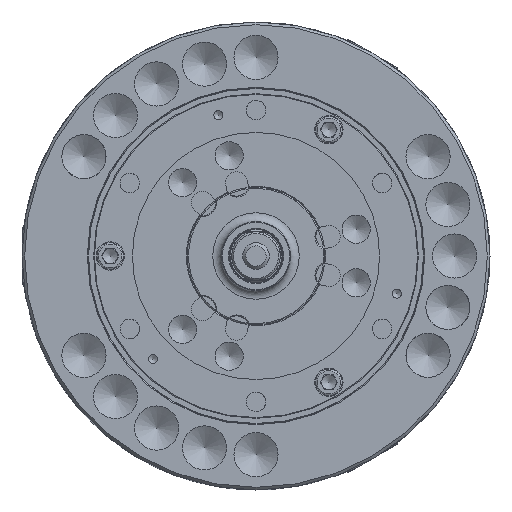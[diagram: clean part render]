
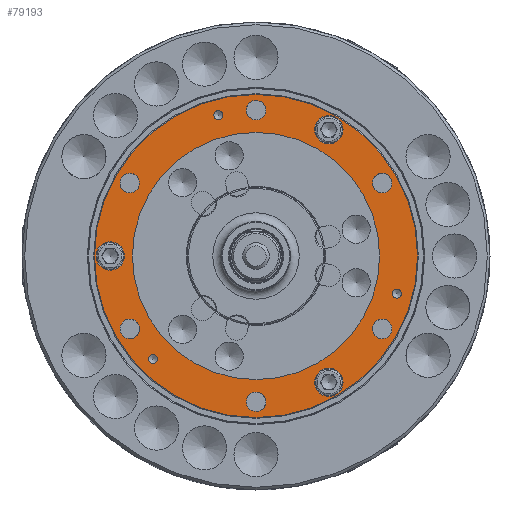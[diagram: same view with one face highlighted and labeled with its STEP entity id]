
A CAD part, left-side view. The second image highlights one B-rep face of the part: STEP entity #79193.
In plain terms, the highlighted planar face has unit normal (-1, 0, 0).
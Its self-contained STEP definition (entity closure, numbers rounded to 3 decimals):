
#754 = EDGE_LOOP ( 'NONE', ( #72613 ) ) ;
#1309 = CARTESIAN_POINT ( 'NONE',  ( -119., -142.981, 82.55 ) ) ;
#2020 = EDGE_LOOP ( 'NONE', ( #59822 ) ) ;
#2239 = ORIENTED_EDGE ( 'NONE', *, *, #45741, .F. ) ;
#2569 = CARTESIAN_POINT ( 'NONE',  ( -119., 142.981, -93.55 ) ) ;
#2838 = ORIENTED_EDGE ( 'NONE', *, *, #61679, .T. ) ;
#4918 = FACE_BOUND ( 'NONE', #61886, .T. ) ;
#5607 = PLANE ( 'NONE',  #29892 ) ;
#6247 = CIRCLE ( 'NONE', #21460, 11. ) ;
#8642 = EDGE_CURVE ( 'NONE', #75815, #75815, #47064, .T. ) ;
#8930 = EDGE_CURVE ( 'NONE', #57392, #57392, #53183, .T. ) ;
#9067 = CARTESIAN_POINT ( 'NONE',  ( -119., -142.981, -93.55 ) ) ;
#10643 = EDGE_CURVE ( 'NONE', #94153, #94153, #6247, .T. ) ;
#10732 = EDGE_LOOP ( 'NONE', ( #62238 ) ) ;
#11653 = ORIENTED_EDGE ( 'NONE', *, *, #28318, .F. ) ;
#12781 = CIRCLE ( 'NONE', #41124, 183. ) ;
#13213 = AXIS2_PLACEMENT_3D ( 'NONE', #31410, #86182, #77666 ) ;
#13445 = FACE_BOUND ( 'NONE', #53138, .T. ) ;
#14099 = EDGE_LOOP ( 'NONE', ( #38562 ) ) ;
#14487 = ORIENTED_EDGE ( 'NONE', *, *, #18140, .F. ) ;
#14620 = VERTEX_POINT ( 'NONE', #33359 ) ;
#15168 = EDGE_CURVE ( 'NONE', #81926, #81926, #23402, .T. ) ;
#16716 = CIRCLE ( 'NONE', #31550, 11. ) ;
#16831 = AXIS2_PLACEMENT_3D ( 'NONE', #45010, #36130, #52940 ) ;
#17066 = DIRECTION ( 'NONE',  ( 1., 0., 0. ) ) ;
#17505 = DIRECTION ( 'NONE',  ( -1., 0., 0. ) ) ;
#18105 = EDGE_LOOP ( 'NONE', ( #11653 ) ) ;
#18140 = EDGE_CURVE ( 'NONE', #14620, #14620, #79710, .T. ) ;
#19282 = CARTESIAN_POINT ( 'NONE',  ( -119., 0., 154.1 ) ) ;
#19965 = CARTESIAN_POINT ( 'NONE',  ( -119., -159.474, -37.631 ) ) ;
#20127 = CARTESIAN_POINT ( 'NONE',  ( -119., 0., 0. ) ) ;
#21292 = AXIS2_PLACEMENT_3D ( 'NONE', #52315, #36878, #29061 ) ;
#21460 = AXIS2_PLACEMENT_3D ( 'NONE', #51058, #81951, #42815 ) ;
#21659 = DIRECTION ( 'NONE',  ( 1., 0., 0. ) ) ;
#21977 = FACE_BOUND ( 'NONE', #88899, .T. ) ;
#22160 = DIRECTION ( 'NONE',  ( 0., 0., 1. ) ) ;
#22507 = DIRECTION ( 'NONE',  ( 0., 0., 1. ) ) ;
#23402 = CIRCLE ( 'NONE', #13213, 16. ) ;
#24030 = AXIS2_PLACEMENT_3D ( 'NONE', #63877, #78301, #55994 ) ;
#24584 = DIRECTION ( 'NONE',  ( -1., 0., 0. ) ) ;
#24910 = DIRECTION ( 'NONE',  ( 0., 0., -1. ) ) ;
#25013 = DIRECTION ( 'NONE',  ( 0., 0., -1. ) ) ;
#25712 = FACE_BOUND ( 'NONE', #58717, .T. ) ;
#26519 = CARTESIAN_POINT ( 'NONE',  ( -119., 0., 140. ) ) ;
#26675 = DIRECTION ( 'NONE',  ( 0., 0., 1. ) ) ;
#26794 = VERTEX_POINT ( 'NONE', #58323 ) ;
#28318 = EDGE_CURVE ( 'NONE', #61054, #61054, #90243, .T. ) ;
#29061 = DIRECTION ( 'NONE',  ( 0., 0., 1. ) ) ;
#29892 = AXIS2_PLACEMENT_3D ( 'NONE', #84328, #21659, #69231 ) ;
#30069 = DIRECTION ( 'NONE',  ( -1., 0., 0. ) ) ;
#31410 = CARTESIAN_POINT ( 'NONE',  ( -119., -82.55, 142.981 ) ) ;
#31550 = AXIS2_PLACEMENT_3D ( 'NONE', #1309, #17066, #24910 ) ;
#32881 = VERTEX_POINT ( 'NONE', #19965 ) ;
#33359 = CARTESIAN_POINT ( 'NONE',  ( -119., 116.743, -111.643 ) ) ;
#34844 = DIRECTION ( 'NONE',  ( -1., 0., 0. ) ) ;
#36130 = DIRECTION ( 'NONE',  ( -1., 0., 0. ) ) ;
#36878 = DIRECTION ( 'NONE',  ( -1., 0., 0. ) ) ;
#37022 = EDGE_LOOP ( 'NONE', ( #2838 ) ) ;
#37848 = FACE_BOUND ( 'NONE', #2020, .T. ) ;
#38562 = ORIENTED_EDGE ( 'NONE', *, *, #8642, .T. ) ;
#39458 = DIRECTION ( 'NONE',  ( 1., 0., 0. ) ) ;
#39561 = EDGE_CURVE ( 'NONE', #47683, #47683, #79181, .T. ) ;
#39566 = EDGE_LOOP ( 'NONE', ( #56302 ) ) ;
#40264 = ORIENTED_EDGE ( 'NONE', *, *, #98256, .F. ) ;
#40313 = FACE_BOUND ( 'NONE', #37022, .T. ) ;
#41124 = AXIS2_PLACEMENT_3D ( 'NONE', #20127, #34844, #26675 ) ;
#41575 = CARTESIAN_POINT ( 'NONE',  ( -119., 42.731, 159.474 ) ) ;
#41632 = DIRECTION ( 'NONE',  ( 0., 0., 1. ) ) ;
#42194 = CARTESIAN_POINT ( 'NONE',  ( -119., 42.731, 164.574 ) ) ;
#42815 = DIRECTION ( 'NONE',  ( 0., 0., -1. ) ) ;
#43411 = CIRCLE ( 'NONE', #100293, 5.1 ) ;
#43841 = CIRCLE ( 'NONE', #24030, 11. ) ;
#45010 = CARTESIAN_POINT ( 'NONE',  ( -119., -82.55, -142.981 ) ) ;
#45097 = VERTEX_POINT ( 'NONE', #83667 ) ;
#45741 = EDGE_CURVE ( 'NONE', #56262, #56262, #47761, .T. ) ;
#46520 = FACE_BOUND ( 'NONE', #98996, .T. ) ;
#47064 = CIRCLE ( 'NONE', #51402, 11. ) ;
#47683 = VERTEX_POINT ( 'NONE', #65570 ) ;
#47761 = CIRCLE ( 'NONE', #74656, 5.1 ) ;
#48866 = CARTESIAN_POINT ( 'NONE',  ( -119., 165.1, 0. ) ) ;
#49199 = CARTESIAN_POINT ( 'NONE',  ( -119., -142.981, -82.55 ) ) ;
#49725 = EDGE_CURVE ( 'NONE', #96621, #96621, #91610, .T. ) ;
#51058 = CARTESIAN_POINT ( 'NONE',  ( -119., 0., -165.1 ) ) ;
#51402 = AXIS2_PLACEMENT_3D ( 'NONE', #49199, #95147, #87279 ) ;
#52110 = CARTESIAN_POINT ( 'NONE',  ( -119., 142.981, 71.55 ) ) ;
#52315 = CARTESIAN_POINT ( 'NONE',  ( -119., 116.743, -116.743 ) ) ;
#52936 = AXIS2_PLACEMENT_3D ( 'NONE', #87113, #39458, #85760 ) ;
#52940 = DIRECTION ( 'NONE',  ( 0., 0.866, -0.5 ) ) ;
#53138 = EDGE_LOOP ( 'NONE', ( #92850 ) ) ;
#53183 = CIRCLE ( 'NONE', #16831, 16. ) ;
#54161 = ORIENTED_EDGE ( 'NONE', *, *, #39561, .F. ) ;
#55994 = DIRECTION ( 'NONE',  ( 0., 0., -1. ) ) ;
#56201 = EDGE_CURVE ( 'NONE', #26794, #26794, #12781, .T. ) ;
#56262 = VERTEX_POINT ( 'NONE', #42194 ) ;
#56302 = ORIENTED_EDGE ( 'NONE', *, *, #83465, .T. ) ;
#57392 = VERTEX_POINT ( 'NONE', #72051 ) ;
#58323 = CARTESIAN_POINT ( 'NONE',  ( -119., 0., 183. ) ) ;
#58373 = CIRCLE ( 'NONE', #52936, 11. ) ;
#58717 = EDGE_LOOP ( 'NONE', ( #14487 ) ) ;
#59822 = ORIENTED_EDGE ( 'NONE', *, *, #8930, .F. ) ;
#59897 = VERTEX_POINT ( 'NONE', #2569 ) ;
#60538 = CARTESIAN_POINT ( 'NONE',  ( -119., 0., 0. ) ) ;
#61054 = VERTEX_POINT ( 'NONE', #26519 ) ;
#61196 = FACE_BOUND ( 'NONE', #14099, .T. ) ;
#61583 = CARTESIAN_POINT ( 'NONE',  ( -119., -159.474, -42.731 ) ) ;
#61620 = EDGE_LOOP ( 'NONE', ( #98928 ) ) ;
#61679 = EDGE_CURVE ( 'NONE', #59897, #59897, #58373, .T. ) ;
#61886 = EDGE_LOOP ( 'NONE', ( #2239 ) ) ;
#61892 = DIRECTION ( 'NONE',  ( -1., 0., 0. ) ) ;
#62238 = ORIENTED_EDGE ( 'NONE', *, *, #49725, .F. ) ;
#62278 = AXIS2_PLACEMENT_3D ( 'NONE', #48866, #24584, #41632 ) ;
#62473 = FACE_BOUND ( 'NONE', #39566, .T. ) ;
#63877 = CARTESIAN_POINT ( 'NONE',  ( -119., 142.981, 82.55 ) ) ;
#64949 = DIRECTION ( 'NONE',  ( 0., 0., 1. ) ) ;
#65570 = CARTESIAN_POINT ( 'NONE',  ( -119., 165.1, 16. ) ) ;
#68551 = FACE_BOUND ( 'NONE', #18105, .T. ) ;
#69231 = DIRECTION ( 'NONE',  ( 0., 0., -1. ) ) ;
#71928 = CARTESIAN_POINT ( 'NONE',  ( -119., 0., 165.1 ) ) ;
#72051 = CARTESIAN_POINT ( 'NONE',  ( -119., -68.694, -150.981 ) ) ;
#72613 = ORIENTED_EDGE ( 'NONE', *, *, #56201, .T. ) ;
#73822 = ORIENTED_EDGE ( 'NONE', *, *, #79735, .F. ) ;
#73989 = EDGE_LOOP ( 'NONE', ( #40264 ) ) ;
#74656 = AXIS2_PLACEMENT_3D ( 'NONE', #41575, #96413, #64949 ) ;
#75815 = VERTEX_POINT ( 'NONE', #9067 ) ;
#75955 = FACE_OUTER_BOUND ( 'NONE', #754, .T. ) ;
#77666 = DIRECTION ( 'NONE',  ( 0., -0.866, -0.5 ) ) ;
#78301 = DIRECTION ( 'NONE',  ( -1., 0., 0. ) ) ;
#78487 = AXIS2_PLACEMENT_3D ( 'NONE', #60538, #61892, #22160 ) ;
#79181 = CIRCLE ( 'NONE', #62278, 16. ) ;
#79193 = ADVANCED_FACE ( 'NONE', ( #40313, #61196, #13445, #62473, #21977, #80883, #100370, #37848, #88243, #46520, #25712, #68551, #75955, #4918 ), #5607, .F. ) ;
#79632 = CARTESIAN_POINT ( 'NONE',  ( -119., -96.406, 134.981 ) ) ;
#79710 = CIRCLE ( 'NONE', #21292, 5.1 ) ;
#79735 = EDGE_CURVE ( 'NONE', #86837, #86837, #43841, .T. ) ;
#80240 = AXIS2_PLACEMENT_3D ( 'NONE', #71928, #17505, #25013 ) ;
#80883 = FACE_BOUND ( 'NONE', #10732, .T. ) ;
#81926 = VERTEX_POINT ( 'NONE', #79632 ) ;
#81951 = DIRECTION ( 'NONE',  ( 1., 0., 0. ) ) ;
#83465 = EDGE_CURVE ( 'NONE', #45097, #45097, #16716, .T. ) ;
#83667 = CARTESIAN_POINT ( 'NONE',  ( -119., -142.981, 71.55 ) ) ;
#84328 = CARTESIAN_POINT ( 'NONE',  ( -119., 140., 0. ) ) ;
#85760 = DIRECTION ( 'NONE',  ( 0., 0., -1. ) ) ;
#86182 = DIRECTION ( 'NONE',  ( -1., 0., 0. ) ) ;
#86820 = CARTESIAN_POINT ( 'NONE',  ( -119., 0., -176.1 ) ) ;
#86837 = VERTEX_POINT ( 'NONE', #52110 ) ;
#87113 = CARTESIAN_POINT ( 'NONE',  ( -119., 142.981, -82.55 ) ) ;
#87279 = DIRECTION ( 'NONE',  ( 0., 0., -1. ) ) ;
#88243 = FACE_BOUND ( 'NONE', #73989, .T. ) ;
#88899 = EDGE_LOOP ( 'NONE', ( #73822 ) ) ;
#90243 = CIRCLE ( 'NONE', #78487, 140. ) ;
#91610 = CIRCLE ( 'NONE', #80240, 11. ) ;
#92850 = ORIENTED_EDGE ( 'NONE', *, *, #10643, .T. ) ;
#94153 = VERTEX_POINT ( 'NONE', #86820 ) ;
#95147 = DIRECTION ( 'NONE',  ( 1., 0., 0. ) ) ;
#96413 = DIRECTION ( 'NONE',  ( -1., 0., 0. ) ) ;
#96621 = VERTEX_POINT ( 'NONE', #19282 ) ;
#98256 = EDGE_CURVE ( 'NONE', #32881, #32881, #43411, .T. ) ;
#98928 = ORIENTED_EDGE ( 'NONE', *, *, #15168, .F. ) ;
#98996 = EDGE_LOOP ( 'NONE', ( #54161 ) ) ;
#100293 = AXIS2_PLACEMENT_3D ( 'NONE', #61583, #30069, #22507 ) ;
#100370 = FACE_BOUND ( 'NONE', #61620, .T. ) ;
